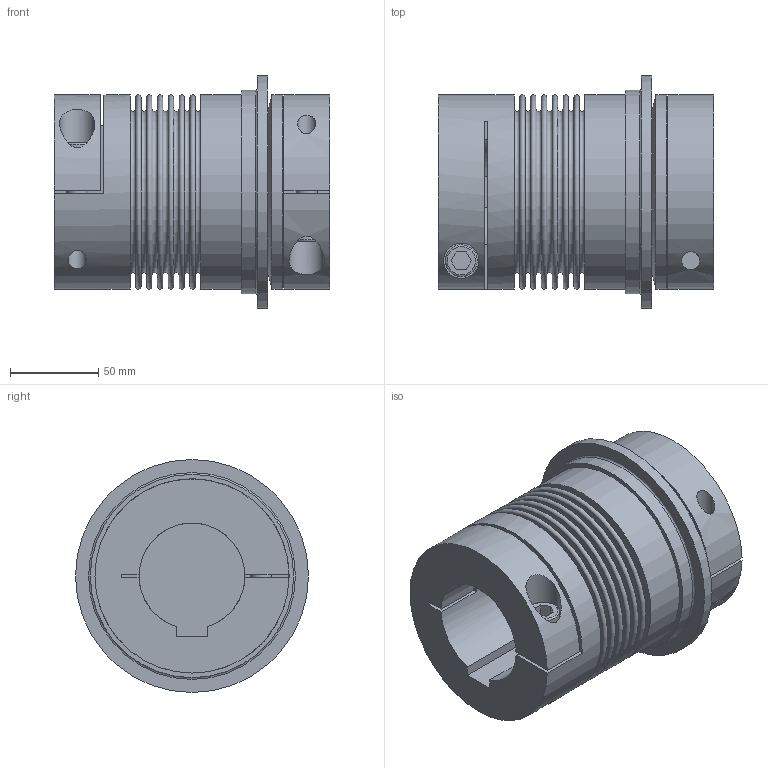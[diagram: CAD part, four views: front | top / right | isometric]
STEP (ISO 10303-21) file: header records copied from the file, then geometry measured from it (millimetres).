
FILE_DESCRIPTION(/* description */ ('STEP AP214'),/* implementation_level */ '2;1');
FILE_NAME(/* name */ 'C:\Diequa Files\DieQua Coupling\TB2\STP\TB2.300.156.F.#.#.stp',/* time_stamp */ '2019-04-26T10:40:10-05:00',/* author */ ('DiequaCAD'),/* organization */ (''),/* preprocessor_version */ 'ST-DEVELOPER v18',/* originating_system */ 'Autodesk Inventor 2020',/* authorisation */ ' ');
FILE_SCHEMA (('AUTOMOTIVE_DESIGN { 1 0 10303 214 3 1 1 }'));
Length unit declared in the file: millimetre
Products named in the file (1): TB2.300.156.F.#.#
Bounding box: 156 x 132 x 132 mm (x, y, z)
Volume: 1177827.7 mm3; surface area: 160861.5 mm2
Topology: 1 solids, 1 shells, 98 faces, 232 edges, 164 vertices
Faces by surface type: plane 61, cylinder 20, torus 16, cone 1
Full cylindrical faces by diameter (mm): 10.2 x2, 12 x2, 13.5 x2, 18 x2, 20 x2, 90.8 x1, 110 x3, 115.2 x1, 132 x1
Entity records: 3121 total; most frequent: CARTESIAN_POINT 647, DIRECTION 547, ORIENTED_EDGE 464, EDGE_CURVE 232, AXIS2_PLACEMENT_3D 222, VERTEX_POINT 164, EDGE_LOOP 130, CIRCLE 123
